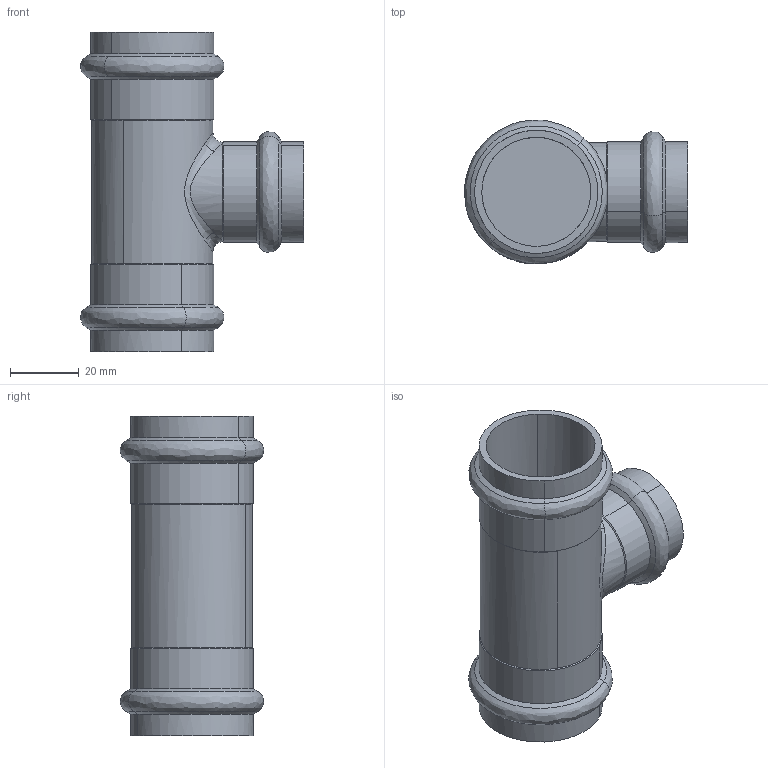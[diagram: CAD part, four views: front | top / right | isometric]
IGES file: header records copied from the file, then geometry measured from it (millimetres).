
Start section: 3D InterOp IGES (Version 25 0 1), Spatial Corp. Copyright (c) 1999-2007.
Global section: file name: pim0004524.igs; native system: Spatial Corp.; preprocessor: 3D InterOp ACIS/IGES; author: Cad-Pim; organization: TransMagic, Inc.; date: 20150430.163156; units: millimetre
Bounding box: 64.9 x 41.78 x 93 mm (x, y, z)
Volume: 65367 mm3; surface area: 23119.1 mm2
Topology: 1 solids, 1 shells, 56 faces, 149 edges, 99 vertices
Faces by surface type: cylinder 20, bspline 18, cone 18
